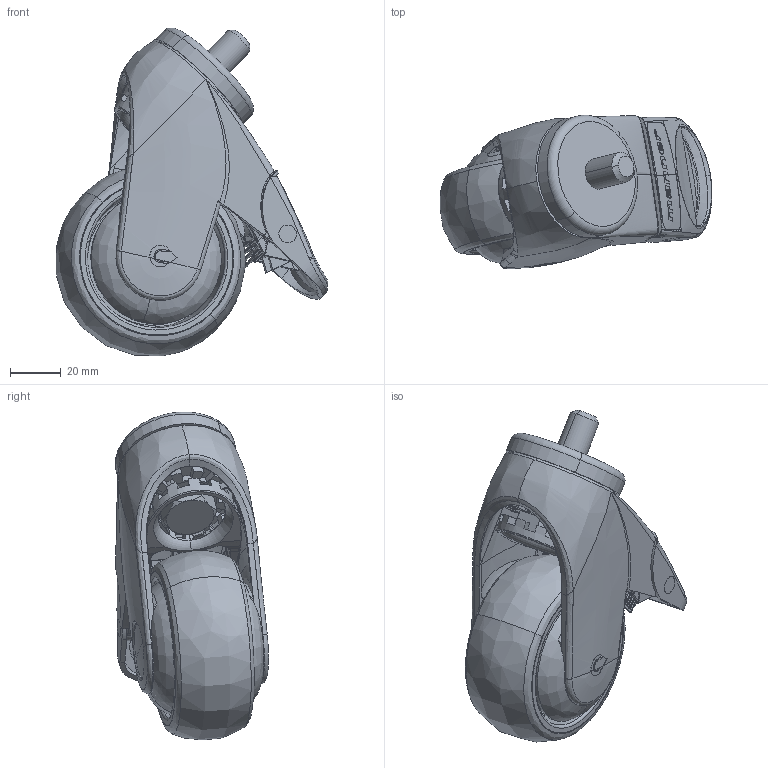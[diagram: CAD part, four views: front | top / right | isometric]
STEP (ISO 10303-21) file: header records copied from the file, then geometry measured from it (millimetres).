
FILE_DESCRIPTION (( 'STEP AP203' ), '1' );
FILE_NAME ('GKR-J-S-75 PTE-K 80 M12.STEP', '2019-11-07T08:23:56', ( '' ), ( '' ), 'SwSTEP 2.0', 'SolidWorks 2017', '' );
FILE_SCHEMA (( 'CONFIG_CONTROL_DESIGN' ));
Products named in the file (1): GKR-J-S-75 PTE-K 80 M12
Bounding box: 107.01 x 60.24 x 129.07 mm (x, y, z)
Volume: 186502.8 mm3; surface area: 122607.6 mm2
Topology: 26 solids, 26 shells, 2024 faces, 5844 edges, 3807 vertices
Faces by surface type: bspline 768, plane 595, cylinder 422, cone 103, torus 94, sphere 42
Entity records: 140967 total; most frequent: CARTESIAN_POINT 96200, ORIENTED_EDGE 11492, DIRECTION 6455, EDGE_CURVE 5746, VERTEX_POINT 3775, B_SPLINE_CURVE_WITH_KNOTS 2622, AXIS2_PLACEMENT_3D 2456, EDGE_LOOP 2097
